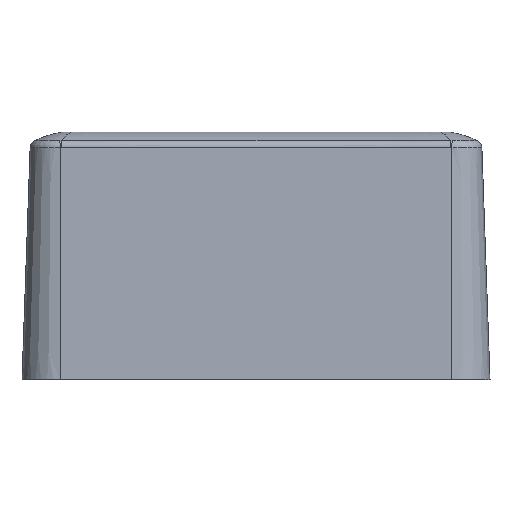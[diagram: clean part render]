
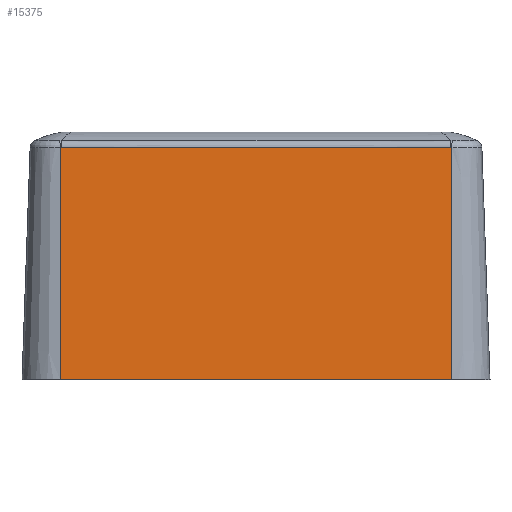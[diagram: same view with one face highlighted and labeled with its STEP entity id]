
A CAD part, left-side view. The second image highlights one B-rep face of the part: STEP entity #15375.
In plain terms, the highlighted planar face has unit normal (-0.999, 0, 0.035) as drawn and (-0.999, 0.035, 0) by its records, which use the part's own axes.
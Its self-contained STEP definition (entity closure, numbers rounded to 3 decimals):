
#211=CARTESIAN_POINT('',(-35.524,36.537,-30.581));
#212=CARTESIAN_POINT('',(-35.524,36.537,-30.617));
#213=CARTESIAN_POINT('',(-35.524,36.537,-30.69));
#214=CARTESIAN_POINT('',(-35.524,36.535,-30.763));
#215=CARTESIAN_POINT('',(-35.524,36.534,-30.8));
#228=CARTESIAN_POINT('',(-35.524,36.534,30.8));
#229=CARTESIAN_POINT('',(-35.524,36.535,30.762));
#230=CARTESIAN_POINT('',(-35.524,36.537,30.686));
#231=CARTESIAN_POINT('',(-35.524,36.537,30.615));
#232=CARTESIAN_POINT('',(-35.524,36.537,30.581));
#245=CARTESIAN_POINT('',(-35.524,36.537,30.581));
#246=CARTESIAN_POINT('',(-35.524,36.539,23.696));
#247=CARTESIAN_POINT('',(-35.524,36.543,9.984));
#248=CARTESIAN_POINT('',(-35.524,36.543,-10.561));
#249=CARTESIAN_POINT('',(-35.524,36.539,-23.943));
#250=CARTESIAN_POINT('',(-35.524,36.537,-30.581));
#418=DIRECTION('',(0.,0.,1.));
#419=VECTOR('',#418,61.6);
#420=CARTESIAN_POINT('',(-36.8,0.,-30.8));
#421=LINE('',#420,#419);
#526=DIRECTION('',(-0.035,-0.999,0.));
#527=VECTOR('',#526,36.556);
#528=CARTESIAN_POINT('',(-35.524,36.534,-30.8));
#529=LINE('',#528,#527);
#595=DIRECTION('',(-0.035,-0.999,0.));
#596=VECTOR('',#595,36.556);
#597=CARTESIAN_POINT('',(-35.524,36.534,30.8));
#598=LINE('',#597,#596);
#618=CARTESIAN_POINT('',(-35.524,36.534,30.8));
#12424=CARTESIAN_POINT('',(-36.8,0.,30.8));
#12426=VERTEX_POINT('',#12424);
#12427=CARTESIAN_POINT('',(-36.8,0.,-30.8));
#12429=VERTEX_POINT('',#12427);
#12461=VERTEX_POINT('',#618);
#12463=VERTEX_POINT('',#232);
#12465=VERTEX_POINT('',#250);
#12467=VERTEX_POINT('',#215);
#15357=CARTESIAN_POINT('',(-36.8,0.,-39.174));
#15358=DIRECTION('',(-0.999,0.035,0.));
#15359=DIRECTION('',(0.,0.,1.));
#15360=AXIS2_PLACEMENT_3D('',#15357,#15358,#15359);
#15361=PLANE('',#15360);
#15363=ORIENTED_EDGE('',*,*,#15362,.F.);
#15365=ORIENTED_EDGE('',*,*,#15364,.T.);
#15367=ORIENTED_EDGE('',*,*,#15366,.F.);
#15369=ORIENTED_EDGE('',*,*,#15368,.F.);
#15370=ORIENTED_EDGE('',*,*,#15347,.F.);
#15372=ORIENTED_EDGE('',*,*,#15371,.F.);
#15373=EDGE_LOOP('',(#15363,#15365,#15367,#15369,#15370,#15372));
#15374=FACE_OUTER_BOUND('',#15373,.F.);
#216=B_SPLINE_CURVE_WITH_KNOTS('',3,(#211,#212,#213,#214,#215),.UNSPECIFIED.,
.F.,.F.,(4,1,4),(0.,0.5,1.),.UNSPECIFIED.);
#233=B_SPLINE_CURVE_WITH_KNOTS('',3,(#228,#229,#230,#231,#232),.UNSPECIFIED.,
.F.,.F.,(4,1,4),(0.,0.5,1.),.UNSPECIFIED.);
#251=B_SPLINE_CURVE_WITH_KNOTS('',3,(#245,#246,#247,#248,#249,#250),
.UNSPECIFIED.,.F.,.F.,(4,1,1,4),(0.,0.333,0.667,1.),
.UNSPECIFIED.);
#15347=EDGE_CURVE('',#12465,#12467,#216,.T.);
#15362=EDGE_CURVE('',#12461,#12463,#233,.T.);
#15364=EDGE_CURVE('',#12461,#12426,#598,.T.);
#15366=EDGE_CURVE('',#12429,#12426,#421,.T.);
#15368=EDGE_CURVE('',#12467,#12429,#529,.T.);
#15371=EDGE_CURVE('',#12463,#12465,#251,.T.);
#15375=ADVANCED_FACE('',(#15374),#15361,.T.);
